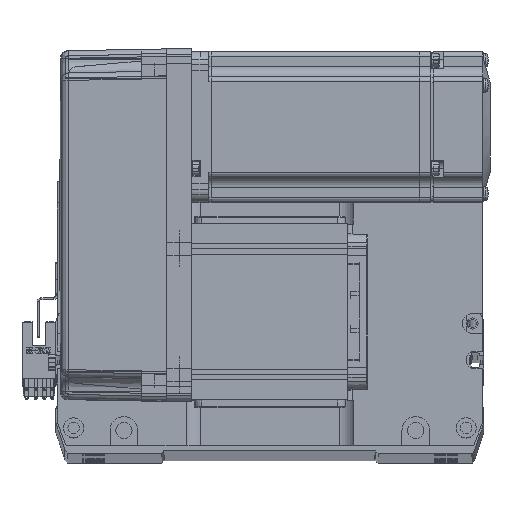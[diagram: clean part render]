
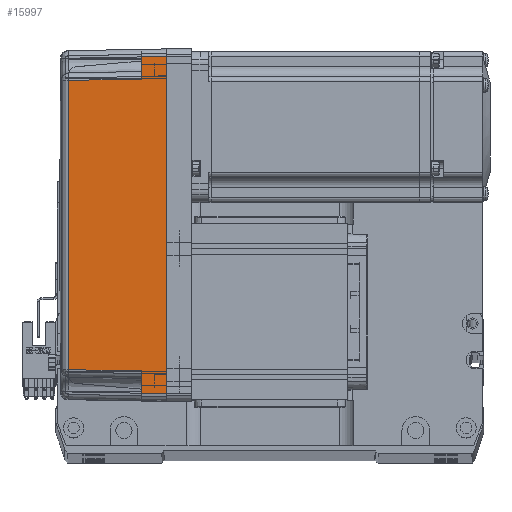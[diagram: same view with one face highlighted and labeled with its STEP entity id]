
A CAD part, top view. The second image highlights one B-rep face of the part: STEP entity #15997.
In plain terms, the highlighted planar face has unit normal (-0.018, 0, 1) as drawn and (0, 1, 0.017) by its records, which use the part's own axes.
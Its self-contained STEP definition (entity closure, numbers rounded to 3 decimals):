
#296 = LINE ( 'NONE', #21110, #15876 ) ;
#521 = LINE ( 'NONE', #37661, #24309 ) ;
#1190 = VERTEX_POINT ( 'NONE', #19416 ) ;
#1411 = ORIENTED_EDGE ( 'NONE', *, *, #53616, .T. ) ;
#1422 = CARTESIAN_POINT ( 'NONE',  ( -67., 36., 0. ) ) ;
#2119 = ORIENTED_EDGE ( 'NONE', *, *, #58231, .T. ) ;
#5887 = DIRECTION ( 'NONE',  ( 0.017, 0.017, -1. ) ) ;
#7152 = DIRECTION ( 'NONE',  ( 0.017, -0.017, 1. ) ) ;
#7965 = CARTESIAN_POINT ( 'NONE',  ( -66.826, 35.825, 10. ) ) ;
#8914 = VERTEX_POINT ( 'NONE', #9038 ) ;
#9038 = CARTESIAN_POINT ( 'NONE',  ( -67., 36., 0. ) ) ;
#9646 = ORIENTED_EDGE ( 'NONE', *, *, #56245, .T. ) ;
#15154 = DIRECTION ( 'NONE',  ( 0.017, -0.017, 1. ) ) ;
#15876 = VECTOR ( 'NONE', #57677, 1000. ) ;
#15997 = ADVANCED_FACE ( 'NONE', ( #39298 ), #63342, .T. ) ;
#17160 = VECTOR ( 'NONE', #7152, 1000. ) ;
#18605 = ORIENTED_EDGE ( 'NONE', *, *, #53821, .T. ) ;
#19416 = CARTESIAN_POINT ( 'NONE',  ( -58., 35.825, 10. ) ) ;
#19974 = DIRECTION ( 'NONE',  ( 1., 0., 0. ) ) ;
#20751 = VECTOR ( 'NONE', #23709, 1000. ) ;
#21104 = DIRECTION ( 'NONE',  ( 0., 1., 0.017 ) ) ;
#21110 = CARTESIAN_POINT ( 'NONE',  ( 70., 35.825, 10. ) ) ;
#21304 = CARTESIAN_POINT ( 'NONE',  ( -57.495, 35.32, 38.985 ) ) ;
#22438 = CARTESIAN_POINT ( 'NONE',  ( 66.826, 35.825, 10. ) ) ;
#23024 = CARTESIAN_POINT ( 'NONE',  ( 0., 36., 0. ) ) ;
#23063 = CARTESIAN_POINT ( 'NONE',  ( 57.495, 35.32, 38.985 ) ) ;
#23338 = EDGE_CURVE ( 'NONE', #66777, #1190, #296, .T. ) ;
#23709 = DIRECTION ( 'NONE',  ( 1., 0., 0. ) ) ;
#24309 = VECTOR ( 'NONE', #5887, 1000. ) ;
#25120 = ORIENTED_EDGE ( 'NONE', *, *, #34934, .F. ) ;
#25389 = CARTESIAN_POINT ( 'NONE',  ( 70., 35.825, 10. ) ) ;
#26414 = VERTEX_POINT ( 'NONE', #53348 ) ;
#26636 = VECTOR ( 'NONE', #15154, 1000. ) ;
#29277 = CARTESIAN_POINT ( 'NONE',  ( 57.495, 35.32, 38.985 ) ) ;
#30774 = AXIS2_PLACEMENT_3D ( 'NONE', #53036, #21104, #48029 ) ;
#31812 = CARTESIAN_POINT ( 'NONE',  ( 58., 35.825, 10. ) ) ;
#32004 = CARTESIAN_POINT ( 'NONE',  ( 67.001, 36.001, -0.052 ) ) ;
#33254 = EDGE_CURVE ( 'NONE', #41153, #66024, #521, .T. ) ;
#33363 = CARTESIAN_POINT ( 'NONE',  ( 19.165, 35.316, 39.181 ) ) ;
#34934 = EDGE_CURVE ( 'NONE', #8914, #26414, #53421, .T. ) ;
#36481 = LINE ( 'NONE', #25389, #43841 ) ;
#37661 = CARTESIAN_POINT ( 'NONE',  ( 57.495, 35.32, 38.985 ) ) ;
#39214 = ORIENTED_EDGE ( 'NONE', *, *, #55350, .F. ) ;
#39298 = FACE_OUTER_BOUND ( 'NONE', #59153, .T. ) ;
#40974 = VERTEX_POINT ( 'NONE', #21304 ) ;
#41148 = VERTEX_POINT ( 'NONE', #22438 ) ;
#41153 = VERTEX_POINT ( 'NONE', #29277 ) ;
#42111 = CARTESIAN_POINT ( 'NONE',  ( -58., 35.825, 10. ) ) ;
#43841 = VECTOR ( 'NONE', #19974, 1000. ) ;
#45247 = B_SPLINE_CURVE_WITH_KNOTS ( 'NONE', 3,
 ( #49102, #64421, #33363, #23063 ),
 .UNSPECIFIED., .F., .F.,
 ( 4, 4 ),
 ( 0., 1. ),
 .UNSPECIFIED. ) ;
#48005 = DIRECTION ( 'NONE',  ( -0.017, -0.017, 1. ) ) ;
#48029 = DIRECTION ( 'NONE',  ( 0., -0.017, 1. ) ) ;
#48359 = VECTOR ( 'NONE', #48005, 1000. ) ;
#48381 = ORIENTED_EDGE ( 'NONE', *, *, #33254, .T. ) ;
#49102 = CARTESIAN_POINT ( 'NONE',  ( -57.495, 35.32, 38.985 ) ) ;
#52289 = LINE ( 'NONE', #1422, #17160 ) ;
#53036 = CARTESIAN_POINT ( 'NONE',  ( 70., 36., 0. ) ) ;
#53348 = CARTESIAN_POINT ( 'NONE',  ( 67., 36., 0. ) ) ;
#53421 = LINE ( 'NONE', #23024, #20751 ) ;
#53616 = EDGE_CURVE ( 'NONE', #1190, #40974, #66759, .T. ) ;
#53821 = EDGE_CURVE ( 'NONE', #40974, #41153, #45247, .T. ) ;
#55350 = EDGE_CURVE ( 'NONE', #26414, #41148, #66346, .T. ) ;
#56245 = EDGE_CURVE ( 'NONE', #8914, #66777, #52289, .T. ) ;
#57677 = DIRECTION ( 'NONE',  ( 1., 0., 0. ) ) ;
#58231 = EDGE_CURVE ( 'NONE', #66024, #41148, #36481, .T. ) ;
#59153 = EDGE_LOOP ( 'NONE', ( #9646, #59487, #1411, #18605, #48381, #2119, #39214, #25120 ) ) ;
#59487 = ORIENTED_EDGE ( 'NONE', *, *, #23338, .T. ) ;
#63342 = PLANE ( 'NONE',  #30774 ) ;
#64421 = CARTESIAN_POINT ( 'NONE',  ( -19.165, 35.316, 39.181 ) ) ;
#66024 = VERTEX_POINT ( 'NONE', #31812 ) ;
#66346 = LINE ( 'NONE', #32004, #48359 ) ;
#66759 = LINE ( 'NONE', #42111, #26636 ) ;
#66777 = VERTEX_POINT ( 'NONE', #7965 ) ;
